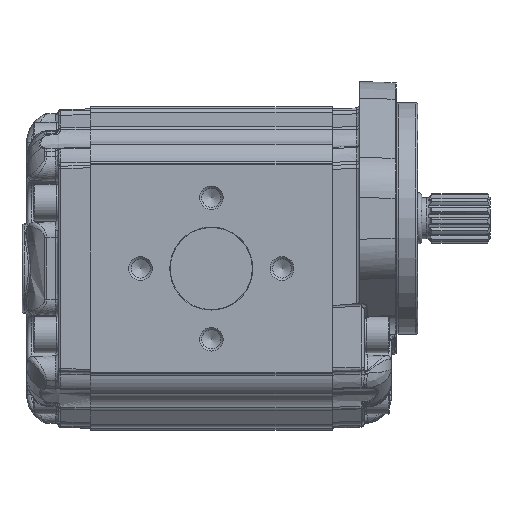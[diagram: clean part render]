
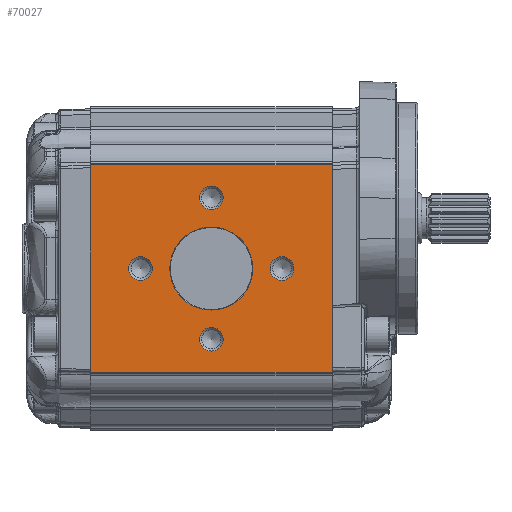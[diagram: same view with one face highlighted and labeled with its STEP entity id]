
A CAD part, left-side view. The second image highlights one B-rep face of the part: STEP entity #70027.
In plain terms, the highlighted planar face has unit normal (-1, 0, 0).
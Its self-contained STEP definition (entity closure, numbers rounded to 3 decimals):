
#8105=LINE('',#122467,#10119);
#8116=LINE('',#122551,#10130);
#8162=LINE('',#122717,#10176);
#8163=LINE('',#122718,#10177);
#10119=VECTOR('',#77549,1000.);
#10130=VECTOR('',#77624,1000.);
#10176=VECTOR('',#77802,1000.);
#10177=VECTOR('',#77803,1000.);
#16526=ORIENTED_EDGE('',*,*,#29327,.T.);
#16527=ORIENTED_EDGE('',*,*,#29328,.T.);
#16528=ORIENTED_EDGE('',*,*,#29329,.T.);
#16529=ORIENTED_EDGE('',*,*,#29330,.T.);
#16530=ORIENTED_EDGE('',*,*,#29331,.T.);
#16531=ORIENTED_EDGE('',*,*,#29202,.F.);
#16532=ORIENTED_EDGE('',*,*,#29332,.T.);
#16533=ORIENTED_EDGE('',*,*,#29244,.F.);
#16534=ORIENTED_EDGE('',*,*,#29333,.T.);
#29202=EDGE_CURVE('',#35928,#35929,#8105,.T.);
#29244=EDGE_CURVE('',#35970,#35971,#8116,.T.);
#29327=EDGE_CURVE('',#36019,#36019,#39824,.F.);
#29328=EDGE_CURVE('',#36020,#36020,#39825,.F.);
#29329=EDGE_CURVE('',#36021,#36021,#39826,.F.);
#29330=EDGE_CURVE('',#36022,#36022,#39827,.F.);
#29331=EDGE_CURVE('',#36023,#36023,#39828,.F.);
#29332=EDGE_CURVE('',#35928,#35971,#8162,.F.);
#29333=EDGE_CURVE('',#35970,#35929,#8163,.F.);
#35928=VERTEX_POINT('',#122466);
#35929=VERTEX_POINT('',#122468);
#35970=VERTEX_POINT('',#122552);
#35971=VERTEX_POINT('',#122553);
#36019=VERTEX_POINT('',#122708);
#36020=VERTEX_POINT('',#122710);
#36021=VERTEX_POINT('',#122712);
#36022=VERTEX_POINT('',#122714);
#36023=VERTEX_POINT('',#122716);
#39824=CIRCLE('',#73302,5.188);
#39825=CIRCLE('',#73303,5.188);
#39826=CIRCLE('',#73304,5.188);
#39827=CIRCLE('',#73305,5.188);
#39828=CIRCLE('',#73306,18.2);
#41152=EDGE_LOOP('',(#16526));
#41153=EDGE_LOOP('',(#16527));
#41154=EDGE_LOOP('',(#16528));
#41155=EDGE_LOOP('',(#16529));
#41156=EDGE_LOOP('',(#16530));
#41157=EDGE_LOOP('',(#16531,#16532,#16533,#16534));
#44498=FACE_BOUND('',#41152,.T.);
#44499=FACE_BOUND('',#41153,.T.);
#44500=FACE_BOUND('',#41154,.T.);
#44501=FACE_BOUND('',#41155,.T.);
#44502=FACE_BOUND('',#41156,.T.);
#44503=FACE_BOUND('',#41157,.T.);
#46937=PLANE('',#73301);
#70027=ADVANCED_FACE('',(#44498,#44499,#44500,#44501,#44502,#44503),#46937,
 .T.);
#73301=AXIS2_PLACEMENT_3D('',#122706,#77790,#77791);
#73302=AXIS2_PLACEMENT_3D('',#122707,#77792,#77793);
#73303=AXIS2_PLACEMENT_3D('',#122709,#77794,#77795);
#73304=AXIS2_PLACEMENT_3D('',#122711,#77796,#77797);
#73305=AXIS2_PLACEMENT_3D('',#122713,#77798,#77799);
#73306=AXIS2_PLACEMENT_3D('',#122715,#77800,#77801);
#77549=DIRECTION('',(0.,0.,1.));
#77624=DIRECTION('',(0.,0.,-1.));
#77790=DIRECTION('',(-1.,0.,0.));
#77791=DIRECTION('',(0.,0.,-1.));
#77792=DIRECTION('',(-1.,0.,0.));
#77793=DIRECTION('',(0.,0.,-1.));
#77794=DIRECTION('',(-1.,0.,0.));
#77795=DIRECTION('',(0.,0.,-1.));
#77796=DIRECTION('',(-1.,0.,0.));
#77797=DIRECTION('',(0.,0.,-1.));
#77798=DIRECTION('',(-1.,0.,0.));
#77799=DIRECTION('',(0.,0.,-1.));
#77800=DIRECTION('',(-1.,0.,0.));
#77801=DIRECTION('',(0.,0.,-1.));
#77802=DIRECTION('',(0.,1.,0.));
#77803=DIRECTION('',(0.,-1.,0.));
#122466=CARTESIAN_POINT('',(-57.5,106.,-45.5));
#122467=CARTESIAN_POINT('',(-57.5,106.,-91.388));
#122468=CARTESIAN_POINT('',(-57.5,106.,45.5));
#122551=CARTESIAN_POINT('',(-57.5,0.,44.978));
#122552=CARTESIAN_POINT('',(-57.5,0.,45.5));
#122553=CARTESIAN_POINT('',(-57.5,0.,-45.5));
#122706=CARTESIAN_POINT('',(-57.5,-130.588,-91.388));
#122707=CARTESIAN_POINT('',(-57.5,53.,-31.));
#122708=CARTESIAN_POINT('',(-57.5,53.,-36.188));
#122709=CARTESIAN_POINT('',(-57.5,22.,0.));
#122710=CARTESIAN_POINT('',(-57.5,22.,-5.188));
#122711=CARTESIAN_POINT('',(-57.5,53.,31.));
#122712=CARTESIAN_POINT('',(-57.5,53.,25.812));
#122713=CARTESIAN_POINT('',(-57.5,84.,0.));
#122714=CARTESIAN_POINT('',(-57.5,84.,-5.188));
#122715=CARTESIAN_POINT('',(-57.5,53.,0.));
#122716=CARTESIAN_POINT('',(-57.5,53.,-18.2));
#122717=CARTESIAN_POINT('',(-57.5,-130.588,-45.5));
#122718=CARTESIAN_POINT('',(-57.5,-130.588,45.5));
